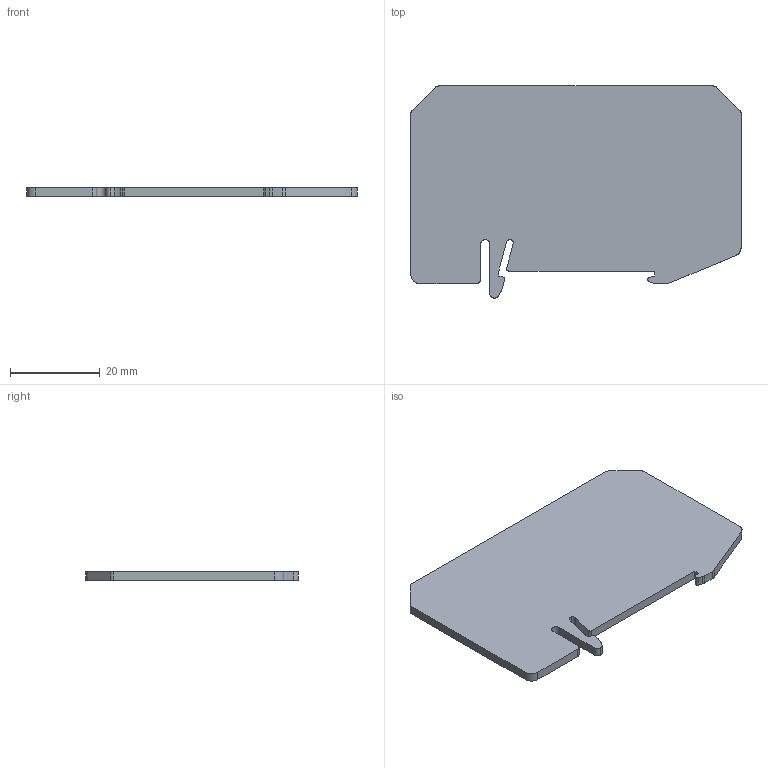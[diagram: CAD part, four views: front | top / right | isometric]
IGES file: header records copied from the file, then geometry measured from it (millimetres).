
Global section: file name: 3024481_atp_st6-select.igs; native system: OneSpace Designer 3D IGES; preprocessor: 12.01C  26-Mar-2004; date: 20041001.132123; units: millimetre
Bounding box: 73.5 x 47.2 x 2 mm (x, y, z)
Surface area: 6594.9 mm2 (no closed solid volume)
Topology: 0 solids, 0 shells, 40 faces, 328 edges, 328 vertices
Faces by surface type: bspline 40
